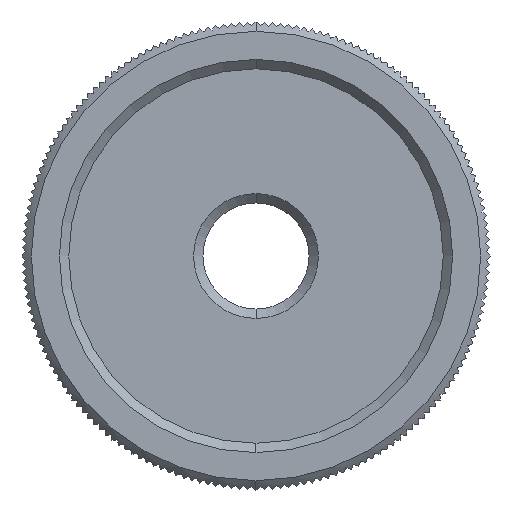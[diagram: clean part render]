
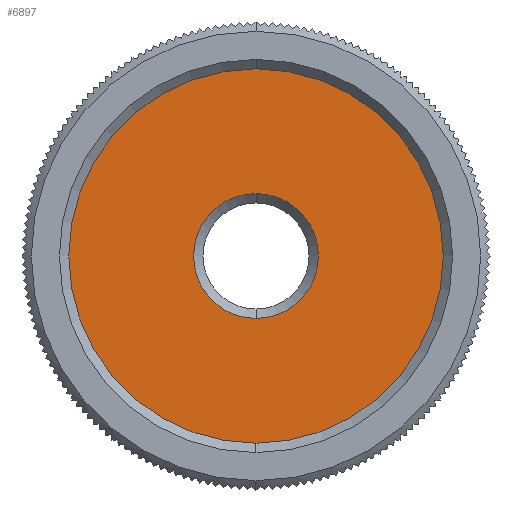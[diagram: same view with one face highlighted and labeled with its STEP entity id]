
A CAD part, left-side view. The second image highlights one B-rep face of the part: STEP entity #6897.
In plain terms, the highlighted planar face has unit normal (-1, 0, 0).
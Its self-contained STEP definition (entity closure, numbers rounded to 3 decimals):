
#794 = AXIS2_PLACEMENT_3D ( 'NONE', #840, #839, #838 ) ;
#795 = PLANE ( 'NONE',  #794 ) ;
#799 = FACE_OUTER_BOUND ( 'NONE', #6902, .T. ) ;
#800 = FACE_BOUND ( 'NONE', #6898, .T. ) ;
#829 = DIRECTION ( 'NONE',  ( 0., 0., 1. ) ) ;
#830 = DIRECTION ( 'NONE',  ( -1., 0., 0. ) ) ;
#831 = CARTESIAN_POINT ( 'NONE',  ( -5., 0., 0. ) ) ;
#832 = AXIS2_PLACEMENT_3D ( 'NONE', #831, #830, #829 ) ;
#833 = CIRCLE ( 'NONE', #832, 12. ) ;
#834 = DIRECTION ( 'NONE',  ( 0., 0., 1. ) ) ;
#835 = DIRECTION ( 'NONE',  ( 1., 0., 0. ) ) ;
#836 = AXIS2_PLACEMENT_3D ( 'NONE', #841, #835, #834 ) ;
#837 = CIRCLE ( 'NONE', #836, 4. ) ;
#838 = DIRECTION ( 'NONE',  ( 0., 0., 1. ) ) ;
#839 = DIRECTION ( 'NONE',  ( -1., 0., 0. ) ) ;
#840 = CARTESIAN_POINT ( 'NONE',  ( -5., 0., 0. ) ) ;
#841 = CARTESIAN_POINT ( 'NONE',  ( -5., 0., 0. ) ) ;
#1223 = CARTESIAN_POINT ( 'NONE',  ( -5., 0., -4. ) ) ;
#1244 = CARTESIAN_POINT ( 'NONE',  ( -5., 0., 4. ) ) ;
#1263 = DIRECTION ( 'NONE',  ( 0., 0., 1. ) ) ;
#1264 = DIRECTION ( 'NONE',  ( 1., 0., 0. ) ) ;
#1265 = CARTESIAN_POINT ( 'NONE',  ( -5., 0., 0. ) ) ;
#1266 = AXIS2_PLACEMENT_3D ( 'NONE', #1265, #1264, #1263 ) ;
#1267 = CIRCLE ( 'NONE', #1266, 4. ) ;
#1340 = CARTESIAN_POINT ( 'NONE',  ( -5., 0., -12. ) ) ;
#1379 = CARTESIAN_POINT ( 'NONE',  ( -5., 0., 12. ) ) ;
#1380 = DIRECTION ( 'NONE',  ( 0., 0., 1. ) ) ;
#1381 = DIRECTION ( 'NONE',  ( -1., 0., 0. ) ) ;
#1382 = CARTESIAN_POINT ( 'NONE',  ( -5., 0., 0. ) ) ;
#1383 = AXIS2_PLACEMENT_3D ( 'NONE', #1382, #1381, #1380 ) ;
#1384 = CIRCLE ( 'NONE', #1383, 12. ) ;
#6897 = ADVANCED_FACE ( 'NONE', ( #800, #799 ), #795, .T. ) ;
#6898 = EDGE_LOOP ( 'NONE', ( #6899, #6900 ) ) ;
#6899 = ORIENTED_EDGE ( 'NONE', *, *, #7131, .T. ) ;
#6900 = ORIENTED_EDGE ( 'NONE', *, *, #6901, .T. ) ;
#6901 = EDGE_CURVE ( 'NONE', #7124, #7110, #837, .T. ) ;
#6902 = EDGE_LOOP ( 'NONE', ( #6903, #6905 ) ) ;
#6903 = ORIENTED_EDGE ( 'NONE', *, *, #6904, .T. ) ;
#6904 = EDGE_CURVE ( 'NONE', #7176, #7165, #833, .T. ) ;
#6905 = ORIENTED_EDGE ( 'NONE', *, *, #7174, .T. ) ;
#7110 = VERTEX_POINT ( 'NONE', #1244 ) ;
#7124 = VERTEX_POINT ( 'NONE', #1223 ) ;
#7131 = EDGE_CURVE ( 'NONE', #7110, #7124, #1267, .T. ) ;
#7165 = VERTEX_POINT ( 'NONE', #1340 ) ;
#7174 = EDGE_CURVE ( 'NONE', #7165, #7176, #1384, .T. ) ;
#7176 = VERTEX_POINT ( 'NONE', #1379 ) ;
